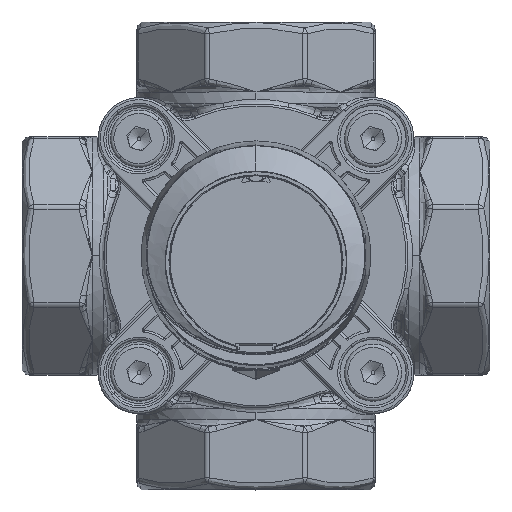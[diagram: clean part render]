
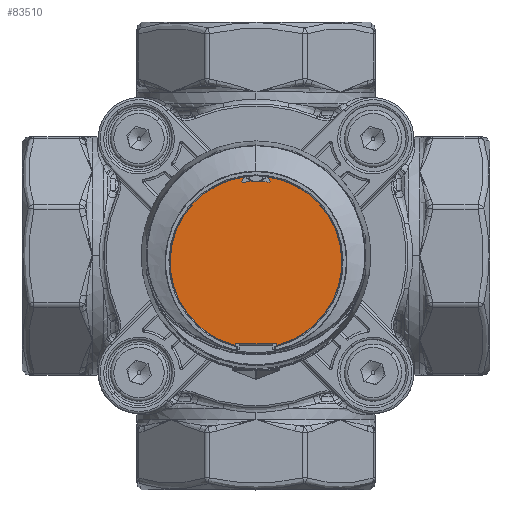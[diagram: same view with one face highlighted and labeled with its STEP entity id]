
A CAD part, top view. The second image highlights one B-rep face of the part: STEP entity #83510.
In plain terms, the highlighted planar face has unit normal (0, 0, 1) as drawn and (0, 1, 0) by its records, which use the part's own axes.
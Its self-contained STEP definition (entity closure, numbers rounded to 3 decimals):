
#3151 = CARTESIAN_POINT ( 'NONE',  ( 0., 58.5, 1.5 ) ) ;
#4044 = ORIENTED_EDGE ( 'NONE', *, *, #41599, .T. ) ;
#6539 = EDGE_CURVE ( 'NONE', #35509, #116489, #264606, .T. ) ;
#9224 = CARTESIAN_POINT ( 'NONE',  ( 1.938, 58.5, -16.697 ) ) ;
#9354 = DIRECTION ( 'NONE',  ( 0., 0., -1. ) ) ;
#10712 = AXIS2_PLACEMENT_3D ( 'NONE', #117835, #295413, #217474 ) ;
#13772 = CIRCLE ( 'NONE', #87914, 0.2 ) ;
#15799 = DIRECTION ( 'NONE',  ( 0., -1., 0. ) ) ;
#21471 = DIRECTION ( 'NONE',  ( 0.175, 0., 0.985 ) ) ;
#21919 = VECTOR ( 'NONE', #283598, 1000. ) ;
#22448 = VERTEX_POINT ( 'NONE', #36755 ) ;
#22928 = EDGE_CURVE ( 'NONE', #233360, #316724, #242239, .T. ) ;
#23091 = EDGE_CURVE ( 'NONE', #178483, #124202, #117060, .T. ) ;
#24528 = DIRECTION ( 'NONE',  ( 1., 0., 0. ) ) ;
#24742 = LINE ( 'NONE', #154223, #21919 ) ;
#32653 = CARTESIAN_POINT ( 'NONE',  ( -3.037, 58.5, -16.749 ) ) ;
#32971 = EDGE_CURVE ( 'NONE', #117088, #173954, #24742, .T. ) ;
#35507 = CARTESIAN_POINT ( 'NONE',  ( 3.037, 58.5, -16.549 ) ) ;
#35509 = VERTEX_POINT ( 'NONE', #204650 ) ;
#35628 = CARTESIAN_POINT ( 'NONE',  ( -3.004, 58.5, -16.552 ) ) ;
#36713 = DIRECTION ( 'NONE',  ( 0., 1., 0. ) ) ;
#36755 = CARTESIAN_POINT ( 'NONE',  ( 4.75, 58.5, 20.359 ) ) ;
#38120 = CARTESIAN_POINT ( 'NONE',  ( -4.75, 58.5, 20.2 ) ) ;
#40408 = EDGE_CURVE ( 'NONE', #22448, #97292, #146782, .T. ) ;
#41599 = EDGE_CURVE ( 'NONE', #223112, #316724, #124635, .T. ) ;
#42814 = ORIENTED_EDGE ( 'NONE', *, *, #238476, .F. ) ;
#46903 = AXIS2_PLACEMENT_3D ( 'NONE', #268127, #15799, #65605 ) ;
#48017 = DIRECTION ( 'NONE',  ( 0., 1., 0. ) ) ;
#49425 = CARTESIAN_POINT ( 'NONE',  ( 0., 58.5, 0. ) ) ;
#59684 = DIRECTION ( 'NONE',  ( -0.5, 0., 0.866 ) ) ;
#61101 = CARTESIAN_POINT ( 'NONE',  ( 0., 58.5, 1.5 ) ) ;
#65605 = DIRECTION ( 'NONE',  ( -1., 0., 0. ) ) ;
#66498 = DIRECTION ( 'NONE',  ( 0., 0., -1. ) ) ;
#68212 = CARTESIAN_POINT ( 'NONE',  ( -3.037, 58.5, -16.549 ) ) ;
#68406 = AXIS2_PLACEMENT_3D ( 'NONE', #293915, #36713, #66498 ) ;
#68783 = CARTESIAN_POINT ( 'NONE',  ( 4.75, 58.5, 20.359 ) ) ;
#73503 = VERTEX_POINT ( 'NONE', #226885 ) ;
#80306 = CARTESIAN_POINT ( 'NONE',  ( -4.75, 58.5, 20.359 ) ) ;
#82385 = DIRECTION ( 'NONE',  ( 0., 0., -1. ) ) ;
#82742 = DIRECTION ( 'NONE',  ( 0., 1., 0. ) ) ;
#82765 = DIRECTION ( 'NONE',  ( 0., 1., 0. ) ) ;
#83510 = ADVANCED_FACE ( 'NONE', ( #276825 ), #270290, .T. ) ;
#84566 = AXIS2_PLACEMENT_3D ( 'NONE', #32653, #208635, #9354 ) ;
#84583 = CARTESIAN_POINT ( 'NONE',  ( -2.684, 58.5, -17.762 ) ) ;
#84931 = ORIENTED_EDGE ( 'NONE', *, *, #23091, .F. ) ;
#85688 = ORIENTED_EDGE ( 'NONE', *, *, #22928, .F. ) ;
#87622 = DIRECTION ( 'NONE',  ( 0., 0., -1. ) ) ;
#87914 = AXIS2_PLACEMENT_3D ( 'NONE', #211255, #294094, #264295 ) ;
#91903 = CARTESIAN_POINT ( 'NONE',  ( 2.684, 58.5, -17.762 ) ) ;
#95184 = ORIENTED_EDGE ( 'NONE', *, *, #306351, .F. ) ;
#96625 = LINE ( 'NONE', #277500, #321833 ) ;
#97292 = VERTEX_POINT ( 'NONE', #137656 ) ;
#106978 = EDGE_CURVE ( 'NONE', #223112, #73503, #210784, .T. ) ;
#107466 = ORIENTED_EDGE ( 'NONE', *, *, #168614, .T. ) ;
#108790 = AXIS2_PLACEMENT_3D ( 'NONE', #175846, #48017, #21471 ) ;
#109924 = EDGE_CURVE ( 'NONE', #233360, #173954, #174220, .T. ) ;
#110731 = VERTEX_POINT ( 'NONE', #242416 ) ;
#116489 = VERTEX_POINT ( 'NONE', #9224 ) ;
#117060 = CIRCLE ( 'NONE', #84566, 0.2 ) ;
#117088 = VERTEX_POINT ( 'NONE', #156675 ) ;
#117835 = CARTESIAN_POINT ( 'NONE',  ( 4.55, 58.5, 20.2 ) ) ;
#121854 = DIRECTION ( 'NONE',  ( 0., 0., -1. ) ) ;
#124202 = VERTEX_POINT ( 'NONE', #35628 ) ;
#124635 = CIRCLE ( 'NONE', #108790, 19.448 ) ;
#124749 = DIRECTION ( 'NONE',  ( 0., 1., 0. ) ) ;
#126508 = AXIS2_PLACEMENT_3D ( 'NONE', #152969, #124749, #307270 ) ;
#133634 = EDGE_CURVE ( 'NONE', #110731, #159429, #96625, .T. ) ;
#137656 = CARTESIAN_POINT ( 'NONE',  ( 4.75, 58.5, 20.2 ) ) ;
#146782 = LINE ( 'NONE', #68783, #167127 ) ;
#150702 = DIRECTION ( 'NONE',  ( 0., 1., 0. ) ) ;
#151375 = DIRECTION ( 'NONE',  ( -0.5, 0., -0.866 ) ) ;
#152969 = CARTESIAN_POINT ( 'NONE',  ( -3.037, 58.5, -16.749 ) ) ;
#154223 = CARTESIAN_POINT ( 'NONE',  ( 4.55, 58.5, 20. ) ) ;
#156675 = CARTESIAN_POINT ( 'NONE',  ( 4.55, 58.5, 20. ) ) ;
#158100 = ORIENTED_EDGE ( 'NONE', *, *, #40408, .F. ) ;
#158452 = CARTESIAN_POINT ( 'NONE',  ( -4.75, 58.5, 20.2 ) ) ;
#159429 = VERTEX_POINT ( 'NONE', #91903 ) ;
#159510 = ORIENTED_EDGE ( 'NONE', *, *, #109924, .T. ) ;
#160412 = DIRECTION ( 'NONE',  ( 0., 1., 0. ) ) ;
#163112 = VECTOR ( 'NONE', #59684, 1000. ) ;
#165490 = ORIENTED_EDGE ( 'NONE', *, *, #6539, .T. ) ;
#167127 = VECTOR ( 'NONE', #121854, 1000. ) ;
#168614 = EDGE_CURVE ( 'NONE', #116489, #124202, #266905, .T. ) ;
#173954 = VERTEX_POINT ( 'NONE', #195502 ) ;
#174220 = CIRCLE ( 'NONE', #46903, 0.2 ) ;
#175171 = CIRCLE ( 'NONE', #10712, 0.2 ) ;
#175374 = VECTOR ( 'NONE', #185921, 1000. ) ;
#175809 = EDGE_CURVE ( 'NONE', #22448, #159429, #219745, .T. ) ;
#175846 = CARTESIAN_POINT ( 'NONE',  ( 0., 58.5, 1.5 ) ) ;
#178483 = VERTEX_POINT ( 'NONE', #68212 ) ;
#180309 = EDGE_LOOP ( 'NONE', ( #4044, #85688, #159510, #275038, #202460, #158100, #303019, #303851, #42814, #95184, #165490, #107466, #84931, #252573, #273760 ) ) ;
#184060 = DIRECTION ( 'NONE',  ( 0.175, 0., 0.985 ) ) ;
#185921 = DIRECTION ( 'NONE',  ( 0., 0., 1. ) ) ;
#190959 = AXIS2_PLACEMENT_3D ( 'NONE', #49425, #150702, #24528 ) ;
#195146 = EDGE_CURVE ( 'NONE', #73503, #178483, #296193, .T. ) ;
#195502 = CARTESIAN_POINT ( 'NONE',  ( -4.55, 58.5, 20. ) ) ;
#198538 = VERTEX_POINT ( 'NONE', #35507 ) ;
#202460 = ORIENTED_EDGE ( 'NONE', *, *, #226944, .T. ) ;
#204650 = CARTESIAN_POINT ( 'NONE',  ( 3.004, 58.5, -16.552 ) ) ;
#208635 = DIRECTION ( 'NONE',  ( 0., 1., 0. ) ) ;
#210205 = CARTESIAN_POINT ( 'NONE',  ( 3.037, 58.5, -16.749 ) ) ;
#210508 = CIRCLE ( 'NONE', #284593, 0.2 ) ;
#210784 = LINE ( 'NONE', #84583, #163112 ) ;
#211255 = CARTESIAN_POINT ( 'NONE',  ( 3.037, 58.5, -16.749 ) ) ;
#214096 = AXIS2_PLACEMENT_3D ( 'NONE', #61101, #82742, #87622 ) ;
#217474 = DIRECTION ( 'NONE',  ( -1., 0., 0. ) ) ;
#219745 = CIRCLE ( 'NONE', #256702, 19.448 ) ;
#223112 = VERTEX_POINT ( 'NONE', #239681 ) ;
#226885 = CARTESIAN_POINT ( 'NONE',  ( -3.211, 58.5, -16.849 ) ) ;
#226944 = EDGE_CURVE ( 'NONE', #117088, #97292, #175171, .T. ) ;
#233360 = VERTEX_POINT ( 'NONE', #158452 ) ;
#238476 = EDGE_CURVE ( 'NONE', #198538, #110731, #13772, .T. ) ;
#239681 = CARTESIAN_POINT ( 'NONE',  ( -2.684, 58.5, -17.762 ) ) ;
#242239 = LINE ( 'NONE', #38120, #175374 ) ;
#242416 = CARTESIAN_POINT ( 'NONE',  ( 3.211, 58.5, -16.849 ) ) ;
#252573 = ORIENTED_EDGE ( 'NONE', *, *, #195146, .F. ) ;
#256702 = AXIS2_PLACEMENT_3D ( 'NONE', #3151, #82765, #184060 ) ;
#264295 = DIRECTION ( 'NONE',  ( 0., 0., -1. ) ) ;
#264606 = CIRCLE ( 'NONE', #68406, 18.3 ) ;
#266905 = CIRCLE ( 'NONE', #214096, 18.3 ) ;
#268127 = CARTESIAN_POINT ( 'NONE',  ( -4.55, 58.5, 20.2 ) ) ;
#270290 = PLANE ( 'NONE',  #190959 ) ;
#273760 = ORIENTED_EDGE ( 'NONE', *, *, #106978, .F. ) ;
#275038 = ORIENTED_EDGE ( 'NONE', *, *, #32971, .F. ) ;
#276825 = FACE_OUTER_BOUND ( 'NONE', #180309, .T. ) ;
#277500 = CARTESIAN_POINT ( 'NONE',  ( 3.211, 58.5, -16.849 ) ) ;
#283598 = DIRECTION ( 'NONE',  ( -1., 0., 0. ) ) ;
#284593 = AXIS2_PLACEMENT_3D ( 'NONE', #210205, #160412, #82385 ) ;
#293915 = CARTESIAN_POINT ( 'NONE',  ( 0., 58.5, 1.5 ) ) ;
#294094 = DIRECTION ( 'NONE',  ( 0., 1., 0. ) ) ;
#295413 = DIRECTION ( 'NONE',  ( 0., -1., 0. ) ) ;
#296193 = CIRCLE ( 'NONE', #126508, 0.2 ) ;
#303019 = ORIENTED_EDGE ( 'NONE', *, *, #175809, .T. ) ;
#303851 = ORIENTED_EDGE ( 'NONE', *, *, #133634, .F. ) ;
#306351 = EDGE_CURVE ( 'NONE', #35509, #198538, #210508, .T. ) ;
#307270 = DIRECTION ( 'NONE',  ( 0., 0., -1. ) ) ;
#316724 = VERTEX_POINT ( 'NONE', #80306 ) ;
#321833 = VECTOR ( 'NONE', #151375, 1000. ) ;
